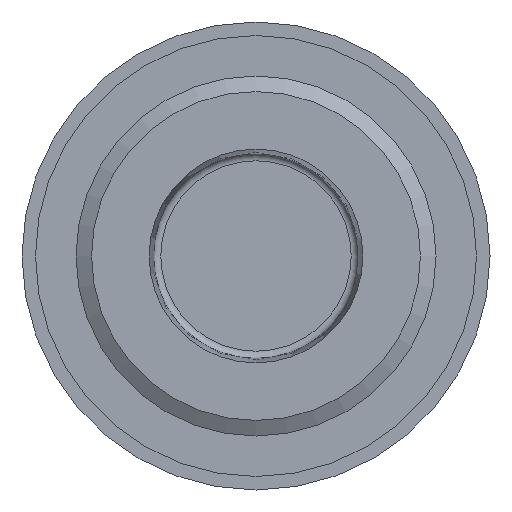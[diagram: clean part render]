
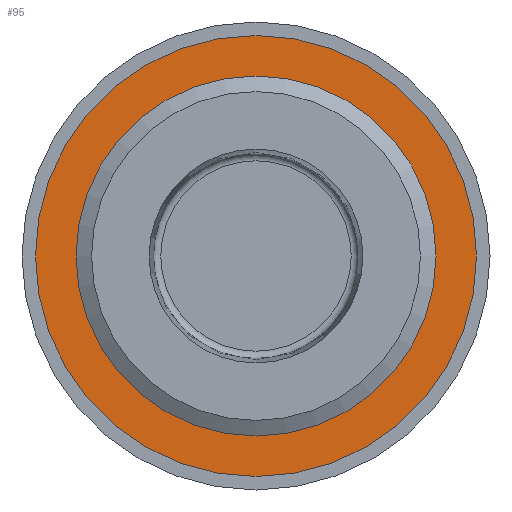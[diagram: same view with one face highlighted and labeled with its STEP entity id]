
A CAD part, front view. The second image highlights one B-rep face of the part: STEP entity #95.
In plain terms, the highlighted planar face has unit normal (0, -1, 0).
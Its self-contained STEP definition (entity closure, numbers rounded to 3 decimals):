
#95 = ADVANCED_FACE( '', ( #150, #151 ), #152, .F. );
#150 = FACE_BOUND( '', #208, .T. );
#151 = FACE_OUTER_BOUND( '', #209, .T. );
#152 = PLANE( '', #210 );
#208 = EDGE_LOOP( '', ( #334 ) );
#209 = EDGE_LOOP( '', ( #335 ) );
#210 = AXIS2_PLACEMENT_3D( '', #336, #337, #338 );
#334 = ORIENTED_EDGE( '', *, *, #374, .F. );
#335 = ORIENTED_EDGE( '', *, *, #375, .T. );
#336 = CARTESIAN_POINT( '', ( 12.25, 7.038, 0. ) );
#337 = DIRECTION( '', ( 0., 1., 0. ) );
#338 = DIRECTION( '', ( 0., 0., 1. ) );
#374 = EDGE_CURVE( '', #430, #430, #431, .T. );
#375 = EDGE_CURVE( '', #432, #432, #433, .T. );
#430 = VERTEX_POINT( '', #506 );
#431 = CIRCLE( '', #507, 10. );
#432 = VERTEX_POINT( '', #508 );
#433 = CIRCLE( '', #509, 12.25 );
#506 = CARTESIAN_POINT( '', ( 0., 7.038, -10. ) );
#507 = AXIS2_PLACEMENT_3D( '', #564, #565, #566 );
#508 = CARTESIAN_POINT( '', ( 0., 7.038, -12.25 ) );
#509 = AXIS2_PLACEMENT_3D( '', #567, #568, #569 );
#564 = CARTESIAN_POINT( '', ( 0., 7.038, 0. ) );
#565 = DIRECTION( '', ( 0., -1., 0. ) );
#566 = DIRECTION( '', ( 0., 0., -1. ) );
#567 = CARTESIAN_POINT( '', ( 0., 7.038, 0. ) );
#568 = DIRECTION( '', ( 0., -1., 0. ) );
#569 = DIRECTION( '', ( 0., 0., -1. ) );
